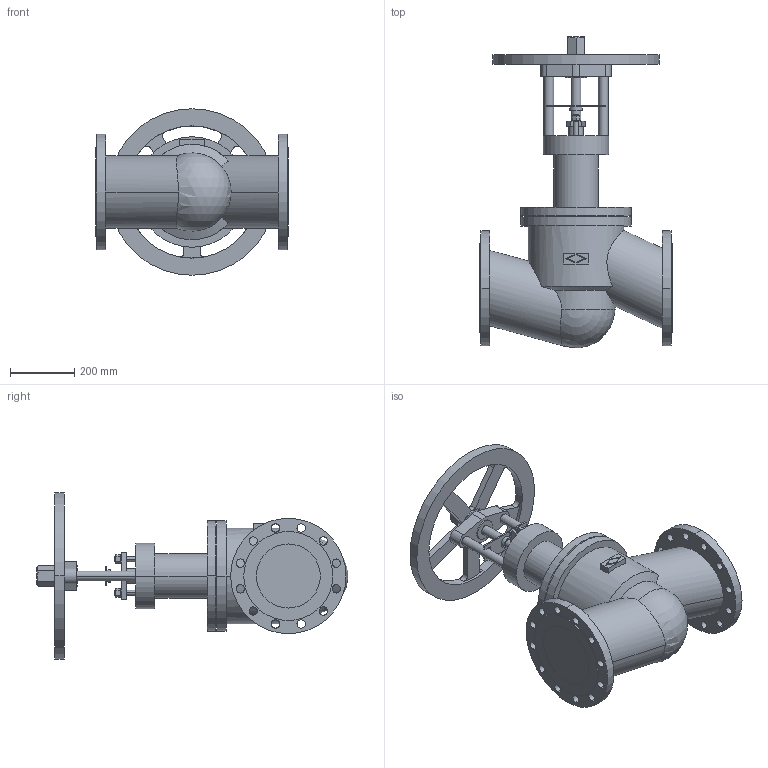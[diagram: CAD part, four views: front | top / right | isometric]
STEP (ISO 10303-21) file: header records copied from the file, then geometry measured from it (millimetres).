
FILE_DESCRIPTION(('Creo Elements/Direct Modeling STEP Export'),'2;1');
FILE_NAME('c000005004.stp','2012-09-19T11:59:25',(''),(''),'Creo Elements/Direct Modeling STEP processor for AP203 (Solid Model)','Creo Elements/Direct Modeling 17.0D 15-Jul-2011 (C) Parametric Technology GmbH','');
FILE_SCHEMA(('CONFIG_CONTROL_DESIGN'));
Length unit declared in the file: millimetre
Products named in the file (1): 1
Bounding box: 600 x 973.81 x 520 mm (x, y, z)
Volume: 53439213.4 mm3; surface area: 1823607.4 mm2
Topology: 1 solids, 1 shells, 262 faces, 698 edges, 463 vertices
Faces by surface type: cylinder 141, plane 116, cone 4, sphere 1
Entity records: 8199 total; most frequent: CARTESIAN_POINT 1655, ORIENTED_EDGE 1392, DIRECTION 1278, EDGE_CURVE 696, VERTEX_POINT 463, AXIS2_PLACEMENT_3D 457, VECTOR 364, LINE 364
